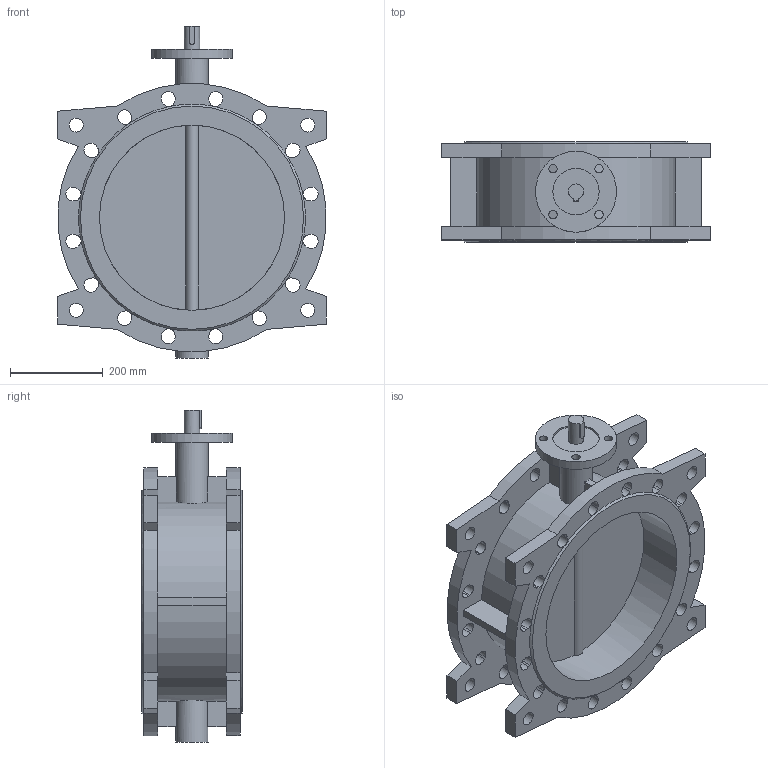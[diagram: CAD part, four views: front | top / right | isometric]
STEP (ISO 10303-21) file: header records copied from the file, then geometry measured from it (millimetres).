
FILE_DESCRIPTION(('STEP AP203'), '1');
FILE_NAME('Çàòâîð 021F.Y DN400 PN10_16 ïîä ÝÏ', '', ('UNSPECIFIED'), ('UNSPECIFIED'), 'ASCON STEP Converter 1.6', 'ASCON Math Kernel', '');
FILE_SCHEMA(('CONFIG_CONTROL_DESIGN'));
Length unit declared in the file: millimetre
Bounding box: 580 x 216 x 717 mm (x, y, z)
Volume: 15920416.4 mm3; surface area: 1665858.7 mm2
Topology: 1 solids, 1 shells, 224 faces, 735 edges, 490 vertices
Faces by surface type: plane 124, cylinder 98, cone 2
Full cylindrical faces by diameter (mm): 18 x4, 30 x8, 33.2 x1, 70 x2, 100 x1, 175 x1, 400 x2
Entity records: 12281 total; most frequent: CARTESIAN_POINT 3748, ORIENTED_EDGE 1428, DIRECTION 1387, EDGE_CURVE 714, AXIS2_PLACEMENT_3D 491, VERTEX_POINT 490, LINE 405, VECTOR 405
